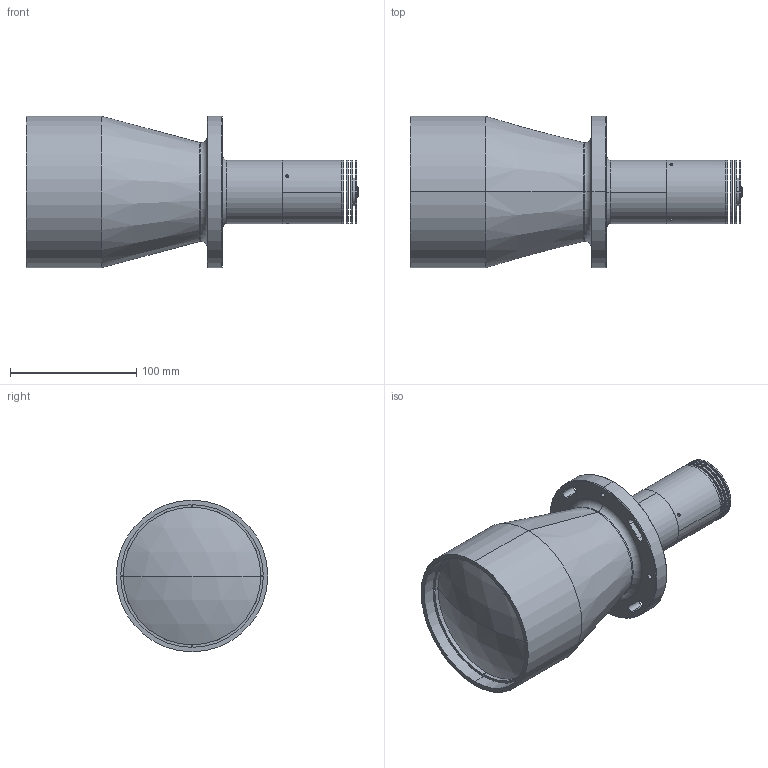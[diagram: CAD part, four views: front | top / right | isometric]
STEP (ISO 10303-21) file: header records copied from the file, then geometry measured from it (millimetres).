
FILE_DESCRIPTION (( 'STEP AP203' ), '1' );
FILE_NAME ('XF-PTI100-PRO-(C).STEP', '2024-11-07T03:12:58', ( '' ), ( '' ), 'SwSTEP 2.0', 'SolidWorks 2022', '' );
FILE_SCHEMA (( 'CONFIG_CONTROL_DESIGN' ));
Length unit declared in the file: millimetre
Products named in the file (1): XF-PTI100-PRO-(C)
Bounding box: 262.9 x 120 x 120 mm (x, y, z)
Surface area: 118483.8 mm2 (no closed solid volume)
Topology: 0 solids, 18 shells, 165 faces, 449 edges, 301 vertices
Faces by surface type: cylinder 78, plane 59, cone 16, torus 10, sphere 2
Entity records: 5542 total; most frequent: CARTESIAN_POINT 1140, DIRECTION 999, ORIENTED_EDGE 773, EDGE_CURVE 445, AXIS2_PLACEMENT_3D 400, VERTEX_POINT 301, CIRCLE 234, EDGE_LOOP 206
